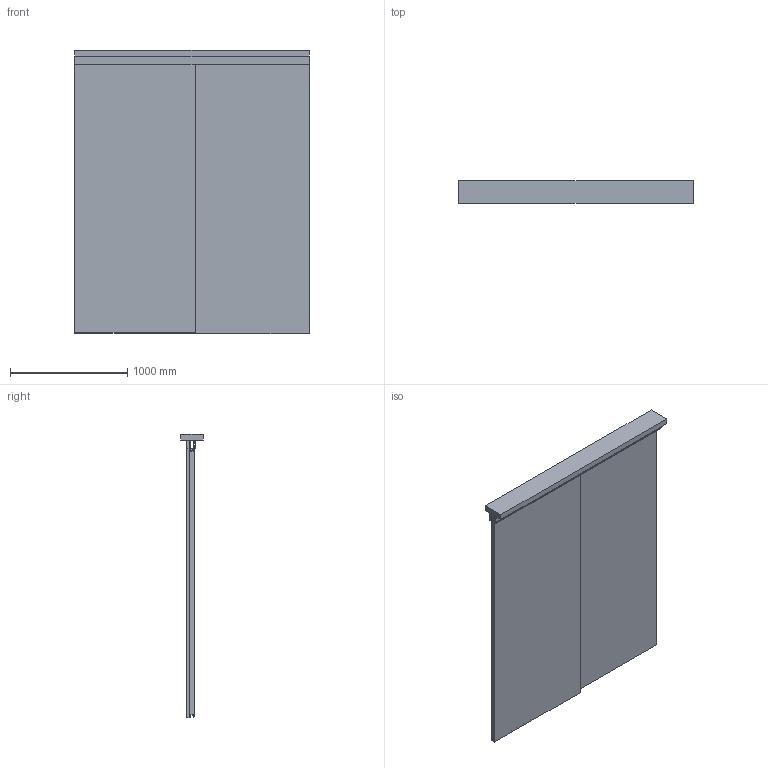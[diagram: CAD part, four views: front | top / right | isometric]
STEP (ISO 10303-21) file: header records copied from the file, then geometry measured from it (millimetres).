
FILE_DESCRIPTION(('STEP AP242'),'1');
FILE_NAME('OPO_65.084.05_volu_schn_3d.stp','2026-02-23T17:28:19',(' '),(' '),'Spatial InterOp 3D',' ',' ');
FILE_SCHEMA(('AP242_MANAGED_MODEL_BASED_3D_ENGINEERING_MIM_LF {1 0 10303 442 1 1 4}'));
Length unit declared in the file: millimetre
Products named in the file (1): 1
Bounding box: 2000 x 188 x 2418 mm (x, y, z)
Volume: 162060779.4 mm3; surface area: 12597700.7 mm2
Topology: 6 solids, 6 shells, 247 faces, 3884 edges, 6803 vertices
Faces by surface type: plane 183, cylinder 64
Entity records: 49014 total; most frequent: DIRECTION 4930, CARTESIAN_POINT 4838, STYLED_ITEM 3468, PRESENTATION_STYLE_ASSIGNMENT 3468, COLOUR_RGB 3468, LINE 3338, VECTOR 3338, COMPOSITE_CURVE 3221
